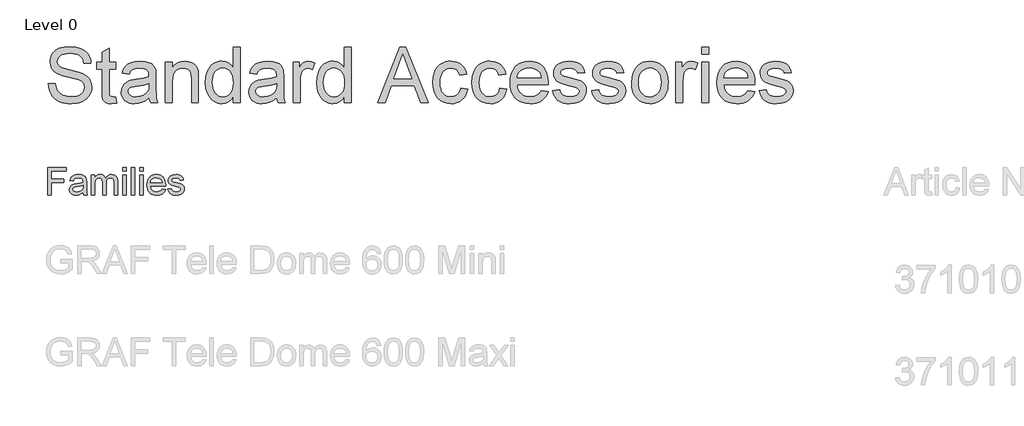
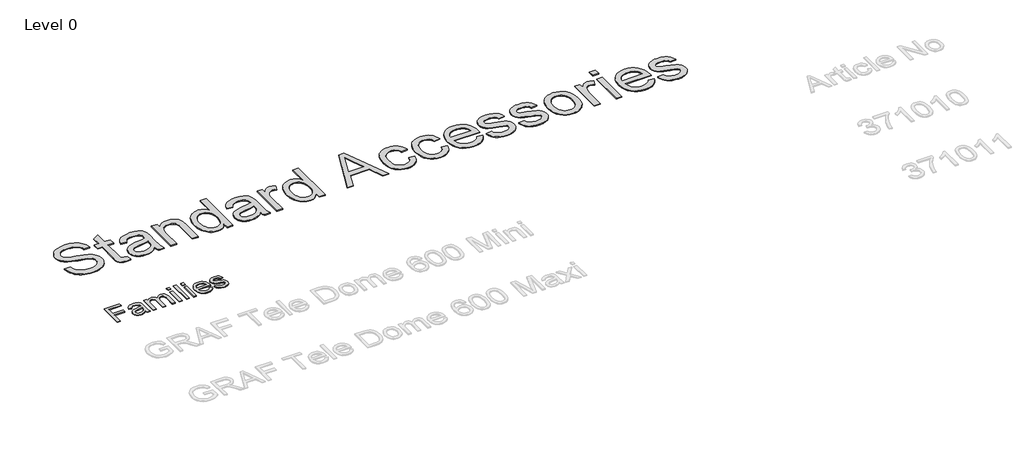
# One storey, part 8 of 14: 2 proxies.
"""IFC4 building model written with IfcOpenShell, lengths in millimetres."""

from ifc_helpers import new_model, si_unit, origin, origin_with_axes, place, context, project, spatial, polyline, outline, extrude, element, save

model = new_model("IFC4")

# Units and contexts
model_context = context("Model", 3, world=origin())
ifc_project = project(units=[si_unit("LENGTHUNIT", "METRE", prefix="MILLI")], contexts=[model_context])

# Site, building, storey
site = spatial("IfcSite", under=ifc_project)
building = spatial("IfcBuilding", under=site)
storey = spatial("IfcBuildingStorey", under=building, Name="Level 0", Elevation=0.0)

# Proxies
placement = place(None, origin())
element("IfcBuildingElementProxy", 1, Name="300mm Arial", ObjectType="300mm Arial", at=placement, inside=storey, context=model_context, shape_type="SweptSolid", body=[
    extrude(outline(polyline([(-15382.9152593, -7345.798374), (-15382.9152593, -7050.4137586), (-15184.4537209, -7050.4137586), (-15184.4537209, -7087.3368356), (-15345.9921824, -7087.3368356), (-15345.9921824, -7175.0291433), (-15207.530644, -7175.0291433), (-15207.530644, -7211.9522202), (-15345.9921824, -7211.9522202), (-15345.9921824, -7345.798374), (-15382.9152593, -7345.798374)])), origin_with_axes(), (0.0, 0.0, 1.0), 10.0),
    extrude(outline(polyline([(-14999.8383363, -7318.1060663), (-15017.4795622, -7333.2322683), (-15035.6436247, -7343.1301048), (-15054.7451872, -7348.5928452), (-15075.1989132, -7350.4137586), (-15106.0552834, -7346.032749), (-15128.8167017, -7332.8897202), (-15142.8521584, -7312.9317875), (-15147.530644, -7288.1060663), (-15145.763817, -7272.7995759), (-15140.4633363, -7258.8993356), (-15132.2872545, -7247.0002971), (-15121.8936247, -7237.6974125), (-15096.0402593, -7225.5820279), (-15064.093144, -7220.0291433), (-15026.3407401, -7214.1877971), (-15000.0546824, -7207.3368356), (-14999.8383363, -7199.1156817), (-15002.3804036, -7182.6373163), (-15010.0066055, -7171.8560663), (-15027.061894, -7163.8512586), (-15050.8239132, -7161.1829894), (-15072.8191055, -7162.9588308), (-15088.1796824, -7168.2863548), (-15098.654442, -7178.1391192), (-15105.9921824, -7193.4906817), (-15142.9152593, -7188.8752971), (-15136.5060045, -7168.6829894), (-15126.9417017, -7152.8176048), (-15113.3299228, -7140.6841913), (-15094.7782401, -7131.6877971), (-15072.0889372, -7126.1168836), (-15046.0642978, -7124.2599125), (-15021.1033603, -7125.9005375), (-15001.3167017, -7130.8224125), (-14986.3978315, -7138.2232538), (-14976.0402593, -7147.3007779), (-14969.171269, -7158.5237346), (-14964.718144, -7172.360874), (-14962.9152593, -7204.6685663), (-14962.9152593, -7250.6060663), (-14961.0402593, -7314.7527009), (-14953.6844901, -7345.798374), (-14990.607567, -7345.798374), (-14999.8383363, -7318.1060663)]), holes=[polyline([(-14999.8383363, -7244.2599125), (-15059.405644, -7255.5820279), (-15091.1724709, -7261.5676048), (-15105.5594901, -7271.3031817), (-15110.607567, -7285.5099125), (-15107.858168, -7296.4894798), (-15099.6099709, -7305.485874), (-15086.0432642, -7311.4894798), (-15067.3383363, -7313.4906817), (-15047.5066055, -7311.2821481), (-15029.982567, -7304.6565471), (-15015.7758363, -7294.8939269), (-15005.8960286, -7283.2743356), (-15001.515019, -7271.3031817), (-15000.0546824, -7254.7166433), (-14999.8383363, -7244.2599125)])]), origin_with_axes(), (0.0, 0.0, 1.0), 10.0),
    extrude(outline(polyline([(-14912.1460286, -7345.798374), (-14912.1460286, -7128.8752971), (-14875.2229517, -7128.8752971), (-14875.2229517, -7164.5724125), (-14864.1171824, -7148.1751769), (-14849.8383363, -7135.329624), (-14832.873192, -7127.0273404), (-14813.7085286, -7124.2599125), (-14793.1736728, -7127.0814269), (-14776.7133363, -7135.5459702), (-14764.4176632, -7149.0946481), (-14756.3767978, -7167.1685663), (-14742.9182642, -7148.3960303), (-14727.5667017, -7134.9870759), (-14710.3221103, -7126.9417034), (-14691.1844901, -7124.2599125), (-14663.4290815, -7128.7220519), (-14642.9032401, -7142.1084702), (-14630.2199468, -7164.7797442), (-14625.9921824, -7197.0964509), (-14625.9921824, -7345.798374), (-14662.9152593, -7345.798374), (-14662.9152593, -7212.9618356), (-14666.3407401, -7182.1325086), (-14671.154442, -7173.6319077), (-14678.7445863, -7166.9522202), (-14688.5072065, -7162.6252971), (-14699.8383363, -7161.1829894), (-14719.8413411, -7164.8789029), (-14736.1484324, -7175.9666433), (-14746.9927834, -7195.2034221), (-14750.607567, -7223.3464509), (-14750.607567, -7345.798374), (-14787.530644, -7345.798374), (-14787.530644, -7208.8512586), (-14789.6670622, -7187.9738548), (-14796.076317, -7173.0820279), (-14807.3533603, -7164.157749), (-14824.093144, -7161.1829894), (-14838.3179036, -7163.1661625), (-14851.4248747, -7169.1156817), (-14862.2421824, -7178.8873163), (-14869.5979517, -7192.3368356), (-14873.8167017, -7210.9966913), (-14875.2229517, -7236.3993356), (-14875.2229517, -7345.798374), (-14912.1460286, -7345.798374)])), origin_with_axes(), (0.0, 0.0, 1.0), 10.0),
    extrude(outline(polyline([(-14570.607567, -7087.3368356), (-14570.607567, -7050.4137586), (-14533.6844901, -7050.4137586), (-14533.6844901, -7087.3368356), (-14570.607567, -7087.3368356)])), origin_with_axes(), (0.0, 0.0, 1.0), 10.0),
    extrude(outline(polyline([(-14570.607567, -7345.798374), (-14570.607567, -7128.8752971), (-14533.6844901, -7128.8752971), (-14533.6844901, -7345.798374), (-14570.607567, -7345.798374)])), origin_with_axes(), (0.0, 0.0, 1.0), 10.0),
    extrude(outline(polyline([(-14478.2998747, -7345.798374), (-14478.2998747, -7050.4137586), (-14441.3767978, -7050.4137586), (-14441.3767978, -7345.798374), (-14478.2998747, -7345.798374)])), origin_with_axes(), (0.0, 0.0, 1.0), 10.0),
    extrude(outline(polyline([(-14385.9921824, -7087.3368356), (-14385.9921824, -7050.4137586), (-14349.0691055, -7050.4137586), (-14349.0691055, -7087.3368356), (-14385.9921824, -7087.3368356)])), origin_with_axes(), (0.0, 0.0, 1.0), 10.0),
    extrude(outline(polyline([(-14385.9921824, -7345.798374), (-14385.9921824, -7128.8752971), (-14349.0691055, -7128.8752971), (-14349.0691055, -7345.798374), (-14385.9921824, -7345.798374)])), origin_with_axes(), (0.0, 0.0, 1.0), 10.0),
    extrude(outline(polyline([(-14141.8094901, -7281.1829894), (-14105.607567, -7285.798374), (-14118.6514372, -7313.0760183), (-14139.4657401, -7333.4666433), (-14167.5817257, -7346.1769798), (-14202.530644, -7350.4137586), (-14225.4408002, -7348.5860844), (-14245.8539613, -7343.1030615), (-14263.7701271, -7333.9646901), (-14279.1892978, -7321.1709702), (-14291.5886367, -7305.0779714), (-14300.4453074, -7286.0417634), (-14305.7593098, -7264.0623464), (-14307.530644, -7239.1397202), (-14305.741281, -7213.3719918), (-14300.373192, -7190.6601529), (-14291.4263771, -7171.0042034), (-14278.9008363, -7154.4041433), (-14263.5222305, -7141.2160423), (-14246.0162209, -7131.7959702), (-14226.3828074, -7126.1439269), (-14204.6219901, -7124.2599125), (-14183.5620442, -7126.1394197), (-14164.5168218, -7131.7779413), (-14147.486323, -7141.1754774), (-14132.4705478, -7154.3320279), (-14120.213186, -7170.8960303), (-14111.4579276, -7190.5159221), (-14106.2047726, -7213.1917034), (-14104.4537209, -7238.923374), (-14104.670067, -7248.8752971), (-14270.607567, -7248.8752971), (-14264.2163411, -7276.5135183), (-14249.3695863, -7296.8320279), (-14227.9423026, -7309.3260183), (-14201.8094901, -7313.4906817), (-14182.1580478, -7311.5615952), (-14165.607567, -7305.7743356), (-14152.1580478, -7295.7683259), (-14141.8094901, -7281.1829894)]), holes=[polyline([(-14270.607567, -7211.9522202), (-14141.3767978, -7211.9522202), (-14146.3707882, -7192.4450086), (-14156.1604517, -7178.4906817), (-14177.686894, -7165.5099125), (-14204.7662209, -7161.1829894), (-14229.655043, -7164.6355134), (-14250.2349709, -7174.9930856), (-14264.5408603, -7191.1379173), (-14270.607567, -7211.9522202)])]), origin_with_axes(), (0.0, 0.0, 1.0), 10.0),
    extrude(outline(polyline([(-14081.3767978, -7281.1829894), (-14044.4537209, -7276.5676048), (-14038.6304036, -7292.360874), (-14027.3623747, -7303.9714509), (-14010.577519, -7311.110874), (-13988.2037209, -7313.4906817), (-13966.1003555, -7311.3091913), (-13950.5594901, -7304.7647202), (-13941.3647786, -7295.2815471), (-13938.2998747, -7284.2839509), (-13941.3828074, -7274.8728933), (-13950.6316055, -7267.6974125), (-13988.6364132, -7257.1685663), (-14044.2373747, -7239.1036625), (-14058.3088892, -7230.0261384), (-14068.5042017, -7218.0099125), (-14074.6971103, -7203.8212106), (-14076.7614132, -7188.2262586), (-14075.1027593, -7173.9203692), (-14070.1267978, -7160.7142394), (-14062.2842497, -7149.1307058), (-14052.0258363, -7139.6926048), (-14028.5522786, -7128.767124), (-13996.7854517, -7124.2599125), (-13972.7529997, -7126.0718115), (-13951.857567, -7131.5075086), (-13935.0546824, -7140.0351529), (-13923.2998747, -7151.1228933), (-13915.5114132, -7165.5910423), (-13910.607567, -7184.2599125), (-13947.530644, -7188.8752971), (-13952.1911007, -7177.2557058), (-13961.4128555, -7168.5027009), (-13975.2860526, -7163.0129173), (-13993.9008363, -7161.1829894), (-14015.1027593, -7162.9317875), (-14029.2373747, -7168.1781817), (-14037.1880959, -7175.7502971), (-14039.8383363, -7184.4762586), (-14035.4392978, -7195.2214509), (-14021.6652593, -7203.3704894), (-13989.8623747, -7211.2310663), (-13935.6676632, -7228.610874), (-13921.3527593, -7236.9221721), (-13910.499394, -7248.298374), (-13903.6574468, -7262.7755375), (-13901.3767978, -7280.3897202), (-13904.0540815, -7298.5988548), (-13912.0859324, -7315.7262586), (-13925.1658603, -7330.4287827), (-13942.9873747, -7341.3632779), (-13964.513817, -7348.1511384), (-13988.7085286, -7350.4137586), (-14025.9380959, -7346.0507779), (-14053.107567, -7332.9618356), (-14071.2445863, -7311.2911625), (-14081.3767978, -7281.1829894)])), origin_with_axes(), (0.0, 0.0, 1.0), 10.0),
])
element("IfcBuildingElementProxy", 2, Name="600mm Arial", ObjectType="600mm Arial", at=placement, inside=storey, context=model_context, shape_type="SweptSolid", body=[
    extrude(outline(polyline([(-15377.5518353, -6138.6072343), (-15302.2096027, -6138.6072343), (-15293.5643758, -6180.4170231), (-15277.9293911, -6214.0230434), (-15253.5388148, -6240.694488), (-15218.6268134, -6261.7005499), (-15175.952502, -6275.3305778), (-15128.2749954, -6279.8739205), (-15086.2996598, -6276.4342238), (-15049.5482484, -6266.1151339), (-15019.7682009, -6249.7811733), (-14998.7069567, -6228.2968648), (-14986.1805748, -6203.630377), (-14982.0051141, -6177.7498786), (-14985.1321111, -6152.5315679), (-14994.513102, -6130.7345596), (-15013.5693893, -6112.1381248), (-15045.7222757, -6096.5215341), (-15155.4246867, -6067.7531621), (-15227.4375872, -6048.7152688), (-15273.5148071, -6030.5970806), (-15311.0203765, -6005.2500111), (-15337.5998507, -5974.5318645), (-15353.4371706, -5939.1048284), (-15358.7162772, -5899.6310903), (-15357.0838008, -5877.1948871), (-15352.1863718, -5855.503645), (-15344.02399, -5834.5573639), (-15332.5966555, -5814.3560438), (-15318.0331271, -5795.7228207), (-15300.4621633, -5779.4808306), (-15279.8837642, -5765.6300735), (-15256.2979297, -5754.1705494), (-15203.2861342, -5738.7746879), (-15144.608956, -5733.642734), (-15081.0389472, -5739.0138112), (-15025.4151896, -5755.1270426), (-15001.0797956, -5767.1291927), (-14979.7242458, -5781.6513344), (-14961.3485401, -5798.6934678), (-14945.9526786, -5818.2555929), (-14933.6562229, -5839.7674926), (-14924.5787347, -5862.6589498), (-14918.7202139, -5886.9299644), (-14916.0806606, -5912.5805365), (-14991.4228932, -5912.5805365), (-14996.4628765, -5888.5394481), (-15005.2552562, -5867.6253567), (-15017.8000323, -5849.8382622), (-15034.0972046, -5835.1781647), (-15054.450276, -5823.7186406), (-15079.1627491, -5815.5332662), (-15108.2346237, -5810.6220415), (-15141.6659, -5808.9849667), (-15176.1640341, -5810.6036474), (-15205.640579, -5815.4596898), (-15230.0955346, -5823.5530937), (-15249.528901, -5834.8838591), (-15264.3361513, -5848.50469), (-15274.9127587, -5863.4682901), (-15281.2587231, -5879.7746596), (-15283.3740446, -5897.4237983), (-15281.8749254, -5912.6081277), (-15277.3775681, -5926.3761113), (-15269.8819724, -5938.7277493), (-15259.3881385, -5949.6630416), (-15242.8702369, -5960.0189198), (-15216.8609799, -5970.4851625), (-15136.3683993, -5991.7487419), (-15053.3006448, -6011.9454634), (-15003.0479643, -6029.567011), (-14960.0977413, -6056.9006432), (-14943.4924678, -6072.9678894), (-14930.1337528, -6090.6354222), (-14919.8652466, -6109.8112712), (-14912.5305993, -6130.4034658), (-14906.6628815, -6175.8368923), (-14908.3505402, -6199.4043326), (-14913.4135161, -6222.2819941), (-14921.8518094, -6244.469877), (-14933.66542, -6265.9679811), (-14948.6474142, -6285.9439734), (-14966.5908585, -6303.565521), (-14987.4957529, -6318.8326238), (-15011.3620973, -6331.7452818), (-15037.4955146, -6342.013788), (-15065.2016273, -6349.3484353), (-15125.3319395, -6355.2161531), (-15163.872177, -6353.6342605), (-15199.1474618, -6348.8885828), (-15231.1577939, -6340.9791199), (-15259.9031733, -6329.9058718), (-15285.5583439, -6315.6504445), (-15308.2980498, -6298.1944438), (-15328.1222908, -6277.5378698), (-15345.031067, -6253.6807224), (-15358.6518978, -6227.3955539), (-15368.6123029, -6199.4549163), (-15374.912282, -6169.8588098), (-15377.5518353, -6138.6072343)])), origin_with_axes(), (0.0, 0.0, 1.0), 10.0),
    extrude(outline(polyline([(-14642.9650674, -6282.9641292), (-14633.5472883, -6348.005666), (-14689.90681, -6355.2161531), (-14726.0696101, -6352.0891561), (-14753.0353603, -6342.7081653), (-14772.0916477, -6328.2504029), (-14784.5260591, -6309.8930913), (-14791.3686642, -6278.3656043), (-14793.6495326, -6224.3973156), (-14793.6495326, -5978.50499), (-14850.1562071, -5978.50499), (-14850.1562071, -5903.1627574), (-14793.6495326, -5903.1627574), (-14793.6495326, -5795.594062), (-14718.3073, -5751.3010698), (-14718.3073, -5903.1627574), (-14642.9650674, -5903.1627574), (-14642.9650674, -5978.50499), (-14718.3073, -5978.50499), (-14718.3073, -6222.1900236), (-14714.3341744, -6261.0383623), (-14701.4583046, -6274.797149), (-14690.5873917, -6278.6047276), (-14675.7801413, -6279.8739205), (-14642.9650674, -6282.9641292)])), origin_with_axes(), (0.0, 0.0, 1.0), 10.0),
    extrude(outline(polyline([(-14285.0894625, -6289.2916996), (-14321.0867157, -6320.156999), (-14358.1508267, -6340.3537205), (-14397.1279241, -6351.5005449), (-14438.8641365, -6355.2161531), (-14472.4103759, -6352.98127), (-14501.8271399, -6346.2766206), (-14527.1144286, -6335.102205), (-14548.2722418, -6319.4580232), (-14564.9786829, -6300.3373565), (-14576.9118551, -6278.7334863), (-14584.0717585, -6254.6464127), (-14586.4583929, -6228.0761356), (-14582.8531494, -6196.8429542), (-14572.0374187, -6168.4792523), (-14555.3539702, -6144.1990407), (-14534.1455732, -6125.2163297), (-14509.221568, -6110.8689319), (-14481.3912951, -6100.4946596), (-14416.2026055, -6089.1638942), (-14339.1681158, -6077.2445175), (-14285.5309209, -6063.2650017), (-14285.0894625, -6046.4895827), (-14290.2765986, -6012.8651684), (-14296.7605188, -6000.4123629), (-14305.838007, -5990.8658251), (-14321.5281741, -5981.3376814), (-14340.6396437, -5974.5318645), (-14389.1264907, -5969.087211), (-14434.0080941, -5972.7108486), (-14465.3516401, -5983.5817616), (-14486.725584, -6003.6865126), (-14501.6983812, -6035.0116645), (-14577.0406138, -6025.5938854), (-14563.9624089, -5984.391102), (-14544.4462691, -5952.0174864), (-14516.6711784, -5927.2590281), (-14478.8161211, -5908.9017166), (-14432.518172, -5897.5341629), (-14379.414406, -5893.7449784), (-14328.4811438, -5897.0927045), (-14288.1060948, -5907.135883), (-14257.6638597, -5922.2374389), (-14236.5290391, -5940.7602973), (-14222.5127351, -5963.6609515), (-14213.4260498, -5991.8958947), (-14209.7472299, -6057.8203482), (-14209.7472299, -6151.5566806), (-14205.9212571, -6282.4490945), (-14200.2558744, -6314.8043159), (-14190.9116717, -6345.798374), (-14266.2539043, -6345.798374), (-14278.3204338, -6319.605176), (-14285.0894625, -6289.2916996)]), holes=[polyline([(-14285.0894625, -6138.6072343), (-14335.710025, -6151.1520104), (-14406.6376737, -6161.7102236), (-14471.4584812, -6173.9239059), (-14488.3258707, -6182.2748272), (-14500.8154644, -6193.7895336), (-14508.5409863, -6207.5851084), (-14511.1161603, -6222.7786348), (-14505.5059599, -6245.1826483), (-14488.6753586, -6263.5399599), (-14460.9922385, -6275.7904303), (-14422.8244815, -6279.8739205), (-14382.357462, -6275.367366), (-14346.5993321, -6261.8477027), (-14317.6102308, -6241.9268927), (-14297.4502975, -6218.2168981), (-14288.510765, -6193.7895336), (-14285.5309209, -6159.9443901), (-14285.0894625, -6138.6072343)])]), origin_with_axes(), (0.0, 0.0, 1.0), 10.0),
    extrude(outline(polyline([(-14106.15166, -6345.798374), (-14106.15166, -5903.1627574), (-14030.8094274, -5903.1627574), (-14030.8094274, -5964.9669326), (-14004.6346234, -5933.8073276), (-13973.199107, -5911.5504669), (-13936.5028779, -5898.1963505), (-13894.5459364, -5893.7449784), (-13857.408249, -5897.3318278), (-13823.3975585, -5908.0923762), (-13795.0338567, -5924.6838541), (-13774.8371352, -5945.7634925), (-13761.1335308, -5971.2761088), (-13752.2491807, -6001.1665209), (-13748.2760551, -6074.007156), (-13748.2760551, -6345.798374), (-13823.6182877, -6345.798374), (-13823.6182877, -6084.1606991), (-13825.7887915, -6045.2019958), (-13832.3003028, -6017.5004815), (-13844.3116499, -5997.6532479), (-13862.9816612, -5982.2573864), (-13886.912385, -5972.3797548), (-13914.7058697, -5969.087211), (-13937.5835313, -5970.935818), (-13958.833315, -5976.4816391), (-13978.455221, -5985.7246742), (-13996.4492491, -5998.6649234), (-14011.4818271, -6016.7739146), (-14022.2193828, -6041.5231758), (-14028.6619163, -6072.9127071), (-14030.8094274, -6110.9425083), (-14030.8094274, -6345.798374), (-14106.15166, -6345.798374)])), origin_with_axes(), (0.0, 0.0, 1.0), 10.0),
    extrude(outline(polyline([(-13371.564892, -6345.798374), (-13371.564892, -6274.7235726), (-13394.1068613, -6309.9390765), (-13421.4129024, -6335.093008), (-13453.4830153, -6350.1853668), (-13490.3172001, -6355.2161531), (-13515.186023, -6353.3951372), (-13539.0247763, -6347.9320896), (-13561.83346, -6338.8270102), (-13583.6120741, -6326.0798991), (-13603.6800369, -6310.0724338), (-13621.3567668, -6291.1862918), (-13636.6422637, -6269.4214733), (-13649.5365276, -6244.7779781), (-13659.7728441, -6217.7248559), (-13667.0844988, -6188.7311562), (-13672.9338225, -6124.9220241), (-13667.5443513, -6061.9038383), (-13651.3759376, -6004.9924937), (-13639.2542258, -5979.6362272), (-13624.4469755, -5957.4253517), (-13606.9541867, -5938.3598673), (-13586.7758592, -5922.439774), (-13564.6247646, -5909.8858009), (-13541.2136741, -5900.9186773), (-13516.5425878, -5895.5384031), (-13490.6115057, -5893.7449784), (-13453.7497298, -5898.8769322), (-13421.155385, -5914.2727937), (-13393.5274472, -5937.8724237), (-13371.564892, -5967.615683), (-13371.564892, -5743.0605131), (-13296.2226594, -5743.0605131), (-13296.2226594, -6345.798374), (-13371.564892, -6345.798374)]), holes=[polyline([(-13597.5915899, -6124.6277185), (-13595.4670714, -6161.1629992), (-13589.0935158, -6192.7778581), (-13578.4709232, -6219.4722954), (-13563.5992935, -6241.246311), (-13545.8397902, -6258.1458901), (-13526.5535766, -6270.2170181), (-13505.7406527, -6277.4596949), (-13483.4010186, -6279.8739205), (-13460.9556183, -6277.5700595), (-13440.2668546, -6270.6584765), (-13421.3347275, -6259.1391715), (-13404.1592368, -6243.0121446), (-13389.899211, -6222.1486369), (-13379.7134782, -6196.4198899), (-13373.6020386, -6165.8259035), (-13371.564892, -6130.3666776), (-13373.6388268, -6091.4907478), (-13379.860631, -6058.151442), (-13390.2303048, -6030.3487602), (-13404.747848, -6008.0827025), (-13422.3004177, -5991.0221749), (-13441.7751708, -5978.8360838), (-13463.1721074, -5971.5244292), (-13486.4912273, -5969.087211), (-13509.2723199, -5971.4278602), (-13530.0852438, -5978.4498077), (-13548.929999, -5990.1530537), (-13565.8065855, -6006.5375981), (-13579.7125249, -6027.9621258), (-13589.6453388, -6054.7853217), (-13595.6050271, -6087.007186), (-13597.5915899, -6124.6277185)])]), origin_with_axes(), (0.0, 0.0, 1.0), 10.0),
    extrude(outline(polyline([(-12900.6759382, -6289.2916996), (-12936.6731914, -6320.156999), (-12973.7373025, -6340.3537205), (-13012.7143999, -6351.5005449), (-13054.4506122, -6355.2161531), (-13087.9968516, -6352.98127), (-13117.4136157, -6346.2766206), (-13142.7009043, -6335.102205), (-13163.8587176, -6319.4580232), (-13180.5651587, -6300.3373565), (-13192.4983309, -6278.7334863), (-13199.6582342, -6254.6464127), (-13202.0448687, -6228.0761356), (-13198.4396251, -6196.8429542), (-13187.6238945, -6168.4792523), (-13170.940446, -6144.1990407), (-13149.732049, -6125.2163297), (-13124.8080438, -6110.8689319), (-13096.9777708, -6100.4946596), (-13031.7890813, -6089.1638942), (-12954.7545915, -6077.2445175), (-12901.1173966, -6063.2650017), (-12900.6759382, -6046.4895827), (-12905.8630744, -6012.8651684), (-12912.3469945, -6000.4123629), (-12921.4244827, -5990.8658251), (-12937.1146498, -5981.3376814), (-12956.2261195, -5974.5318645), (-13004.7129665, -5969.087211), (-13049.5945699, -5972.7108486), (-13080.9381159, -5983.5817616), (-13102.3120598, -6003.6865126), (-13117.284857, -6035.0116645), (-13192.6270896, -6025.5938854), (-13179.5488847, -5984.391102), (-13160.0327448, -5952.0174864), (-13132.2576542, -5927.2590281), (-13094.4025969, -5908.9017166), (-13048.1046478, -5897.5341629), (-12995.0008818, -5893.7449784), (-12944.0676196, -5897.0927045), (-12903.6925706, -5907.135883), (-12873.2503355, -5922.2374389), (-12852.1155149, -5940.7602973), (-12838.0992108, -5963.6609515), (-12829.0125256, -5991.8958947), (-12825.3337056, -6057.8203482), (-12825.3337056, -6151.5566806), (-12821.5077329, -6282.4490945), (-12815.8423501, -6314.8043159), (-12806.4981475, -6345.798374), (-12881.8403801, -6345.798374), (-12893.9069095, -6319.605176), (-12900.6759382, -6289.2916996)]), holes=[polyline([(-12900.6759382, -6138.6072343), (-12951.2965008, -6151.1520104), (-13022.2241494, -6161.7102236), (-13087.044957, -6173.9239059), (-13103.9123465, -6182.2748272), (-13116.4019402, -6193.7895336), (-13124.1274621, -6207.5851084), (-13126.7026361, -6222.7786348), (-13121.0924356, -6245.1826483), (-13104.2618344, -6263.5399599), (-13076.5787142, -6275.7904303), (-13038.4109572, -6279.8739205), (-12997.9439377, -6275.367366), (-12962.1858078, -6261.8477027), (-12933.1967066, -6241.9268927), (-12913.0367733, -6218.2168981), (-12904.0972408, -6193.7895336), (-12901.1173966, -6159.9443901), (-12900.6759382, -6138.6072343)])]), origin_with_axes(), (0.0, 0.0, 1.0), 10.0),
    extrude(outline(polyline([(-12721.7381358, -6345.798374), (-12721.7381358, -5903.1627574), (-12655.8136822, -5903.1627574), (-12655.8136822, -5968.6457526), (-12631.4598941, -5930.6803307), (-12609.0190924, -5908.3131054), (-12586.5047143, -5897.3870101), (-12561.9301971, -5893.7449784), (-12524.4062336, -5899.5575139), (-12486.2936589, -5916.9951204), (-12511.4567873, -5984.5382548), (-12537.944291, -5972.9499719), (-12564.4317946, -5969.087211), (-12586.9277786, -5972.8028191), (-12607.0325297, -5983.9496436), (-12623.2745198, -6001.6815557), (-12634.1822209, -6025.152427), (-12643.3424826, -6067.2381273), (-12646.3959032, -6113.1498003), (-12646.3959032, -6345.798374), (-12721.7381358, -6345.798374)])), origin_with_axes(), (0.0, 0.0, 1.0), 10.0),
    extrude(outline(polyline([(-12166.0891703, -6345.798374), (-12166.0891703, -6274.7235726), (-12188.6311395, -6309.9390765), (-12215.9371806, -6335.093008), (-12248.0072935, -6350.1853668), (-12284.8414783, -6355.2161531), (-12309.7103012, -6353.3951372), (-12333.5490545, -6347.9320896), (-12356.3577382, -6338.8270102), (-12378.1363523, -6326.0798991), (-12398.2043151, -6310.0724338), (-12415.881045, -6291.1862918), (-12431.1665419, -6269.4214733), (-12444.0608058, -6244.7779781), (-12454.2971223, -6217.7248559), (-12461.608777, -6188.7311562), (-12467.4581007, -6124.9220241), (-12462.0686295, -6061.9038383), (-12445.9002158, -6004.9924937), (-12433.778504, -5979.6362272), (-12418.9712537, -5957.4253517), (-12401.4784649, -5938.3598673), (-12381.3001374, -5922.439774), (-12359.1490428, -5909.8858009), (-12335.7379523, -5900.9186773), (-12311.066866, -5895.5384031), (-12285.1357839, -5893.7449784), (-12248.274008, -5898.8769322), (-12215.6796632, -5914.2727937), (-12188.0517254, -5937.8724237), (-12166.0891703, -5967.615683), (-12166.0891703, -5743.0605131), (-12090.7469376, -5743.0605131), (-12090.7469376, -6345.798374), (-12166.0891703, -6345.798374)]), holes=[polyline([(-12392.1158681, -6124.6277185), (-12389.9913496, -6161.1629992), (-12383.617794, -6192.7778581), (-12372.9952014, -6219.4722954), (-12358.1235717, -6241.246311), (-12340.3640684, -6258.1458901), (-12321.0778548, -6270.2170181), (-12300.2649309, -6277.4596949), (-12277.9252968, -6279.8739205), (-12255.4798966, -6277.5700595), (-12234.7911328, -6270.6584765), (-12215.8590057, -6259.1391715), (-12198.683515, -6243.0121446), (-12184.4234892, -6222.1486369), (-12174.2377564, -6196.4198899), (-12168.1263168, -6165.8259035), (-12166.0891703, -6130.3666776), (-12168.163105, -6091.4907478), (-12174.3849092, -6058.151442), (-12184.754583, -6030.3487602), (-12199.2721262, -6008.0827025), (-12216.8246959, -5991.0221749), (-12236.299449, -5978.8360838), (-12257.6963856, -5971.5244292), (-12281.0155055, -5969.087211), (-12303.7965981, -5971.4278602), (-12324.609522, -5978.4498077), (-12343.4542772, -5990.1530537), (-12360.3308637, -6006.5375981), (-12374.2368031, -6027.9621258), (-12384.169617, -6054.7853217), (-12390.1293053, -6087.007186), (-12392.1158681, -6124.6277185)])]), origin_with_axes(), (0.0, 0.0, 1.0), 10.0),
    extrude(outline(polyline([(-11803.0632174, -6345.798374), (-11562.4683926, -5743.0605131), (-11498.3097726, -5743.0605131), (-11257.7149478, -6345.798374), (-11337.3246115, -6345.798374), (-11406.3392738, -6157.4427925), (-11654.5860442, -6157.4427925), (-11723.4535537, -6345.798374), (-11803.0632174, -6345.798374)]), holes=[polyline([(-11626.9213181, -6082.1005599), (-11433.8568471, -6082.1005599), (-11488.1562295, -5933.9176922), (-11530.3890826, -5818.4027457), (-11567.9130461, -5920.968246), (-11626.9213181, -6082.1005599)])]), origin_with_axes(), (0.0, 0.0, 1.0), 10.0),
    extrude(outline(polyline([(-10904.106774, -6185.6961297), (-10828.7645414, -6195.1139088), (-10836.9591128, -6230.6651051), (-10849.7706033, -6262.1236142), (-10867.1990128, -6289.4894361), (-10889.2443414, -6312.7625709), (-10914.977687, -6331.3360131), (-10943.4701475, -6344.6027575), (-10974.721723, -6352.5628042), (-11008.7324134, -6355.2161531), (-11050.9882591, -6351.5143405), (-11088.8755061, -6340.4089028), (-11122.3941544, -6321.8998399), (-11151.544204, -6295.9871519), (-11175.1392354, -6263.1582823), (-11191.9928293, -6223.9006749), (-11202.1049857, -6178.2143296), (-11205.4757044, -6126.0992465), (-11199.7183512, -6059.0527529), (-11192.5216597, -6028.8818308), (-11182.4462915, -6000.9457917), (-11169.4232689, -5975.8056559), (-11153.3836139, -5954.0224433), (-11134.3273266, -5935.5961538), (-11112.2544069, -5920.5267876), (-11088.1627347, -5908.8097461), (-11063.05019, -5900.4404307), (-11036.9167728, -5895.4188414), (-11009.762483, -5893.7449784), (-10976.3358052, -5896.0442408), (-10946.1005037, -5902.9420282), (-10919.0565786, -5914.4383406), (-10895.2040297, -5930.5331779), (-10874.9475274, -5950.8586581), (-10858.6917417, -5975.0468993), (-10846.4366727, -6003.0979014), (-10838.1823205, -6035.0116645), (-10913.5245531, -6044.4294436), (-10927.1913692, -6011.5591873), (-10948.4733426, -5987.9963455), (-10976.193251, -5973.8144946), (-11009.1738718, -5969.087211), (-11034.7738602, -5971.4140646), (-11057.8630539, -5978.3946254), (-11078.441453, -5990.0288935), (-11096.5090575, -6006.3168689), (-11111.2197388, -6027.6356305), (-11121.7273682, -6054.3622574), (-11128.0319459, -6086.4967497), (-11130.1334718, -6124.0391073), (-11128.0779312, -6162.1470835), (-11121.9113092, -6194.6540563), (-11111.633606, -6221.5600257), (-11097.2448215, -6242.8649918), (-11079.5359019, -6259.0563981), (-11059.2977937, -6270.6216883), (-11036.5304967, -6277.5608624), (-11011.234011, -6279.8739205), (-10972.2201254, -6274.0981732), (-10955.3481374, -6266.878489), (-10940.2327859, -6256.7709312), (-10927.2971353, -6243.6651351), (-10916.9642497, -6227.4507362), (-10909.2341293, -6208.1277344), (-10904.106774, -6185.6961297)])), origin_with_axes(), (0.0, 0.0, 1.0), 10.0),
    extrude(outline(polyline([(-10480.3067156, -6185.6961297), (-10404.9644829, -6195.1139088), (-10413.1590544, -6230.6651051), (-10425.9705449, -6262.1236142), (-10443.3989544, -6289.4894361), (-10465.4442829, -6312.7625709), (-10491.1776285, -6331.3360131), (-10519.670089, -6344.6027575), (-10550.9216645, -6352.5628042), (-10584.932355, -6355.2161531), (-10627.1882007, -6351.5143405), (-10665.0754476, -6340.4089028), (-10698.5940959, -6321.8998399), (-10727.7441455, -6295.9871519), (-10751.339177, -6263.1582823), (-10768.1927709, -6223.9006749), (-10778.3049272, -6178.2143296), (-10781.675646, -6126.0992465), (-10775.9182928, -6059.0527529), (-10768.7216012, -6028.8818308), (-10758.6462331, -6000.9457917), (-10745.6232105, -5975.8056559), (-10729.5835555, -5954.0224433), (-10710.5272681, -5935.5961538), (-10688.4543484, -5920.5267876), (-10664.3626763, -5908.8097461), (-10639.2501316, -5900.4404307), (-10613.1167143, -5895.4188414), (-10585.9624246, -5893.7449784), (-10552.5357468, -5896.0442408), (-10522.3004453, -5902.9420282), (-10495.2565201, -5914.4383406), (-10471.4039713, -5930.5331779), (-10451.1474689, -5950.8586581), (-10434.8916832, -5975.0468993), (-10422.6366143, -6003.0979014), (-10414.382262, -6035.0116645), (-10489.7244946, -6044.4294436), (-10503.3913107, -6011.5591873), (-10524.6732842, -5987.9963455), (-10552.3931925, -5973.8144946), (-10585.3738134, -5969.087211), (-10610.9738017, -5971.4140646), (-10634.0629954, -5978.3946254), (-10654.6413945, -5990.0288935), (-10672.708999, -6006.3168689), (-10687.4196803, -6027.6356305), (-10697.9273098, -6054.3622574), (-10704.2318875, -6086.4967497), (-10706.3334134, -6124.0391073), (-10704.2778727, -6162.1470835), (-10698.1112508, -6194.6540563), (-10687.8335476, -6221.5600257), (-10673.444763, -6242.8649918), (-10655.7358435, -6259.0563981), (-10635.4977352, -6270.6216883), (-10612.7304382, -6277.5608624), (-10587.4339525, -6279.8739205), (-10548.420067, -6274.0981732), (-10531.548079, -6266.878489), (-10516.4327275, -6256.7709312), (-10503.4970768, -6243.6651351), (-10493.1641913, -6227.4507362), (-10485.4340709, -6208.1277344), (-10480.3067156, -6185.6961297)])), origin_with_axes(), (0.0, 0.0, 1.0), 10.0),
    extrude(outline(polyline([(-10029.1362367, -6213.949467), (-9955.265532, -6223.367246), (-9966.591699, -6252.9541555), (-9981.8817944, -6279.0277919), (-10001.1358183, -6301.5881553), (-10024.3537707, -6320.6352456), (-10051.2965284, -6335.7643926), (-10081.7249679, -6346.5709262), (-10115.6390893, -6353.0548464), (-10153.0388926, -6355.2161531), (-10199.7874972, -6351.4867494), (-10241.4409361, -6340.2985382), (-10277.9992094, -6321.6515196), (-10309.462317, -6295.5456935), (-10334.7634012, -6262.7076269), (-10352.8356042, -6223.8638867), (-10363.678926, -6179.014473), (-10367.2933666, -6128.1593857), (-10363.6421378, -6075.5798515), (-10352.6884514, -6029.2359172), (-10334.4323074, -5989.1275827), (-10308.8737058, -5955.2548479), (-10277.4933716, -5928.34428), (-10241.7720299, -5909.1224457), (-10201.7096806, -5897.5893452), (-10157.3063238, -5893.7449784), (-10114.3331082, -5897.5801482), (-10075.470974, -5909.0856575), (-10040.719921, -5928.2615065), (-10010.0799493, -5955.1076951), (-9985.0685722, -5988.9068535), (-9967.2033028, -6028.9416116), (-9956.4841411, -6075.2119695), (-9952.9110873, -6127.7179273), (-9953.3525457, -6148.0250134), (-10291.951134, -6148.0250134), (-10287.5871339, -6178.0901695), (-10278.9097173, -6204.4213233), (-10265.9188843, -6227.0184748), (-10248.614635, -6245.8816241), (-10227.9534624, -6260.7532538), (-10204.8918599, -6271.3758464), (-10179.4298273, -6277.749402), (-10151.5673647, -6279.8739205), (-10111.4682272, -6275.9375831), (-10077.69666, -6264.1285711), (-10050.2526632, -6243.7111204), (-10029.1362367, -6213.949467)]), holes=[polyline([(-10291.951134, -6072.6827808), (-10028.2533199, -6072.6827808), (-10038.4436511, -6032.8779489), (-10047.2084397, -6017.22457), (-10058.4196435, -6004.4038825), (-10078.9658529, -5988.9528387), (-10102.3447537, -5977.9163788), (-10128.5563459, -5971.2945029), (-10157.6006294, -5969.087211), (-10184.0927316, -5970.848446), (-10208.3867388, -5976.1321512), (-10230.4826512, -5984.9383264), (-10250.3804686, -5997.2669718), (-10267.0777126, -6012.5478702), (-10279.5719049, -6030.2108045), (-10287.8630454, -6050.2557747), (-10291.951134, -6072.6827808)])]), origin_with_axes(), (0.0, 0.0, 1.0), 10.0),
    extrude(outline(polyline([(-9905.8221919, -6213.949467), (-9830.4799593, -6204.5316879), (-9825.9274196, -6221.7117771), (-9818.5973708, -6236.7581507), (-9808.489813, -6249.6708087), (-9795.6047461, -6260.4497511), (-9779.905382, -6268.9478252), (-9761.3549324, -6275.0178782), (-9715.7007768, -6279.8739205), (-9670.5984442, -6275.4225483), (-9653.0688671, -6269.8583332), (-9638.8870162, -6262.0684319), (-9620.1250344, -6242.717839), (-9615.434539, -6231.8837142), (-9613.8710405, -6220.2770373), (-9615.443736, -6210.1051001), (-9620.1618226, -6201.0735971), (-9639.034169, -6186.4318937), (-9667.250718, -6176.8669618), (-9716.5836936, -6164.9475852), (-9785.3408385, -6145.0635634), (-9830.0385009, -6128.0858093), (-9858.7516906, -6109.5629508), (-9879.5554174, -6085.0436158), (-9892.192164, -6056.0913028), (-9896.4044128, -6024.2695102), (-9893.0198985, -5995.0780739), (-9882.8663554, -5968.1307178), (-9866.8634886, -5944.4942996), (-9845.9310031, -5925.2356771), (-9825.1272762, -5913.1139654), (-9798.0327673, -5902.9420282), (-9766.7076154, -5896.0442408), (-9733.2119597, -5893.7449784), (-9684.1732898, -5897.4421924), (-9641.5357665, -5908.5338346), (-9607.2491646, -5925.9346529), (-9583.2632585, -5948.5593956), (-9567.3707563, -5978.0819257), (-9557.3643661, -6016.1761063), (-9632.7065987, -6025.5938854), (-9642.2163482, -6001.8838908), (-9661.0335123, -5984.02322), (-9689.3420318, -5972.8212132), (-9727.3258478, -5969.087211), (-9770.5887705, -5972.6556663), (-9799.4307189, -5983.3610324), (-9815.6543149, -5998.8120762), (-9821.0621802, -6016.6175647), (-9818.8181, -6028.2058476), (-9812.0858595, -6038.5433317), (-9800.5711531, -6047.7771697), (-9783.9796751, -6055.1715978), (-9719.0852911, -6071.2112528), (-9608.4999634, -6106.6750772), (-9579.290133, -6123.6344371), (-9557.1436369, -6146.847791), (-9543.1825151, -6176.3887152), (-9538.5288079, -6212.3307862), (-9543.9918555, -6249.4868677), (-9560.3809984, -6284.4356572), (-9587.0708372, -6314.4364339), (-9623.4359724, -6336.7484769), (-9667.3610826, -6350.5992341), (-9716.7308464, -6355.2161531), (-9757.2806393, -6352.990467), (-9792.6984784, -6346.3134088), (-9822.9843636, -6335.1849785), (-9848.138295, -6319.605176), (-9868.6845045, -6299.6475777), (-9885.1472238, -6275.3857601), (-9897.5264529, -6246.8197232), (-9905.8221919, -6213.949467)])), origin_with_axes(), (0.0, 0.0, 1.0), 10.0),
    extrude(outline(polyline([(-9482.0221334, -6213.949467), (-9406.6799008, -6204.5316879), (-9402.1273611, -6221.7117771), (-9394.7973124, -6236.7581507), (-9384.6897546, -6249.6708087), (-9371.8046877, -6260.4497511), (-9356.1053235, -6268.9478252), (-9337.5548739, -6275.0178782), (-9291.9007183, -6279.8739205), (-9246.7983857, -6275.4225483), (-9229.2688087, -6269.8583332), (-9215.0869577, -6262.0684319), (-9196.324976, -6242.717839), (-9191.6344805, -6231.8837142), (-9190.0709821, -6220.2770373), (-9191.6436776, -6210.1051001), (-9196.3617642, -6201.0735971), (-9215.2341105, -6186.4318937), (-9243.4506596, -6176.8669618), (-9292.7836351, -6164.9475852), (-9361.54078, -6145.0635634), (-9406.2384424, -6128.0858093), (-9434.9516322, -6109.5629508), (-9455.755359, -6085.0436158), (-9468.3921055, -6056.0913028), (-9472.6043544, -6024.2695102), (-9469.21984, -5995.0780739), (-9459.0662969, -5968.1307178), (-9443.0634302, -5944.4942996), (-9422.1309446, -5925.2356771), (-9401.3272178, -5913.1139654), (-9374.2327089, -5902.9420282), (-9342.907557, -5896.0442408), (-9309.4119013, -5893.7449784), (-9260.3732313, -5897.4421924), (-9217.7357081, -5908.5338346), (-9183.4491062, -5925.9346529), (-9159.4632001, -5948.5593956), (-9143.5706979, -5978.0819257), (-9133.5643076, -6016.1761063), (-9208.9065402, -6025.5938854), (-9218.4162898, -6001.8838908), (-9237.2334538, -5984.02322), (-9265.5419734, -5972.8212132), (-9303.5257894, -5969.087211), (-9346.788712, -5972.6556663), (-9375.6306604, -5983.3610324), (-9391.8542564, -5998.8120762), (-9397.2621218, -6016.6175647), (-9395.0180416, -6028.2058476), (-9388.2858011, -6038.5433317), (-9376.7710946, -6047.7771697), (-9360.1796166, -6055.1715978), (-9295.2852327, -6071.2112528), (-9184.6999049, -6106.6750772), (-9155.4900745, -6123.6344371), (-9133.3435784, -6146.847791), (-9119.3824567, -6176.3887152), (-9114.7287495, -6212.3307862), (-9120.1917971, -6249.4868677), (-9136.58094, -6284.4356572), (-9163.2707787, -6314.4364339), (-9199.6359139, -6336.7484769), (-9243.5610242, -6350.5992341), (-9292.9307879, -6355.2161531), (-9333.4805808, -6352.990467), (-9368.8984199, -6346.3134088), (-9399.1843052, -6335.1849785), (-9424.3382366, -6319.605176), (-9444.884446, -6299.6475777), (-9461.3471653, -6275.3857601), (-9473.7263944, -6246.8197232), (-9482.0221334, -6213.949467)])), origin_with_axes(), (0.0, 0.0, 1.0), 10.0),
    extrude(outline(polyline([(-9048.8042959, -6124.4805657), (-9044.7300028, -6067.1553538), (-9032.5071235, -6017.7579989), (-9012.1356581, -5976.288501), (-8983.6156064, -5942.7468601), (-8954.9024167, -5921.3085368), (-8923.2093828, -5905.9954488), (-8888.5365047, -5896.807596), (-8850.8837825, -5893.7449784), (-8809.3177156, -5897.4743821), (-8771.7339713, -5908.6625933), (-8738.1325495, -5927.3096119), (-8708.5134504, -5953.415438), (-8684.3390048, -5986.0971547), (-8667.0715436, -6024.4718453), (-8656.7110669, -6068.5395098), (-8653.2575747, -6118.3001482), (-8654.784285, -6158.6292119), (-8659.3644158, -6194.414933), (-8666.9979672, -6225.6573114), (-8677.6849392, -6252.3563472), (-8691.2919745, -6275.4179498), (-8707.6857159, -6295.7480286), (-8726.8661634, -6313.3465835), (-8748.8333171, -6328.2136147), (-8772.7318512, -6340.0272252), (-8797.7064401, -6348.4655185), (-8823.7570839, -6353.5284944), (-8850.8837825, -6355.2161531), (-8893.0568547, -6351.5005449), (-8930.990087, -6340.3537205), (-8964.6834792, -6321.7756797), (-8994.1370314, -6295.7664227), (-9018.0539596, -6262.7674077), (-9035.1374798, -6223.2200932), (-9045.3875919, -6177.1244792), (-9048.8042959, -6124.4805657)]), holes=[polyline([(-8973.4620633, -6124.3334129), (-8971.2823625, -6160.8778906), (-8964.74326, -6192.5203407), (-8953.8447559, -6219.2607633), (-8938.5868502, -6241.0991582), (-8920.0272035, -6258.0631167), (-8899.2234767, -6270.1802299), (-8876.1756697, -6277.4504978), (-8850.8837825, -6279.8739205), (-8825.720654, -6277.4367023), (-8802.7648175, -6270.1250476), (-8782.016273, -6257.9389565), (-8763.4750205, -6240.878429), (-8748.2171147, -6218.8239034), (-8737.3186106, -6191.655818), (-8730.7795081, -6159.374173), (-8728.5998073, -6121.9789682), (-8730.7933037, -6086.5933187), (-8737.3737929, -6055.7786031), (-8748.3412749, -6029.5348213), (-8763.6957497, -6007.8619733), (-8782.3059801, -5990.8980148), (-8803.040729, -5978.7809015), (-8825.8999965, -5971.5106336), (-8850.8837825, -5969.087211), (-8876.1756697, -5971.5014366), (-8899.2234767, -5978.7441133), (-8920.0272035, -5990.8152413), (-8938.5868502, -6007.7148205), (-8953.8447559, -6029.488836), (-8964.74326, -6056.1832733), (-8971.2823625, -6087.7981323), (-8973.4620633, -6124.3334129)])]), origin_with_axes(), (0.0, 0.0, 1.0), 10.0),
    extrude(outline(polyline([(-8568.497563, -6345.798374), (-8568.497563, -5903.1627574), (-8502.5731095, -5903.1627574), (-8502.5731095, -5968.6457526), (-8478.2193214, -5930.6803307), (-8455.7785197, -5908.3131054), (-8433.2641416, -5897.3870101), (-8408.6896243, -5893.7449784), (-8371.1656608, -5899.5575139), (-8333.0530861, -5916.9951204), (-8358.2162146, -5984.5382548), (-8384.7037182, -5972.9499719), (-8411.1912219, -5969.087211), (-8433.6872059, -5972.8028191), (-8453.7919569, -5983.9496436), (-8470.033947, -6001.6815557), (-8480.9416482, -6025.152427), (-8490.1019098, -6067.2381273), (-8493.1553304, -6113.1498003), (-8493.1553304, -6345.798374), (-8568.497563, -6345.798374)])), origin_with_axes(), (0.0, 0.0, 1.0), 10.0),
    extrude(outline(polyline([(-8285.9641907, -5818.4027457), (-8285.9641907, -5743.0605131), (-8210.6219581, -5743.0605131), (-8210.6219581, -5818.4027457), (-8285.9641907, -5818.4027457)])), origin_with_axes(), (0.0, 0.0, 1.0), 10.0),
    extrude(outline(polyline([(-8285.9641907, -6345.798374), (-8285.9641907, -5903.1627574), (-8210.6219581, -5903.1627574), (-8210.6219581, -6345.798374), (-8285.9641907, -6345.798374)])), origin_with_axes(), (0.0, 0.0, 1.0), 10.0),
    extrude(outline(polyline([(-7787.7048165, -6213.949467), (-7713.8341118, -6223.367246), (-7725.1602787, -6252.9541555), (-7740.4503742, -6279.0277919), (-7759.7043981, -6301.5881553), (-7782.9223505, -6320.6352456), (-7809.8651081, -6335.7643926), (-7840.2935477, -6346.5709262), (-7874.2076691, -6353.0548464), (-7911.6074724, -6355.2161531), (-7958.356077, -6351.4867494), (-8000.0095159, -6340.2985382), (-8036.5677891, -6321.6515196), (-8068.0308968, -6295.5456935), (-8093.331981, -6262.7076269), (-8111.404184, -6223.8638867), (-8122.2475058, -6179.014473), (-8125.8619464, -6128.1593857), (-8122.2107176, -6075.5798515), (-8111.2570312, -6029.2359172), (-8093.0008872, -5989.1275827), (-8067.4422856, -5955.2548479), (-8036.0619514, -5928.34428), (-8000.3406097, -5909.1224457), (-7960.2782604, -5897.5893452), (-7915.8749036, -5893.7449784), (-7872.901688, -5897.5801482), (-7834.0395537, -5909.0856575), (-7799.2885008, -5928.2615065), (-7768.6485291, -5955.1076951), (-7743.637152, -5988.9068535), (-7725.7718826, -6028.9416116), (-7715.0527209, -6075.2119695), (-7711.4796671, -6127.7179273), (-7711.9211254, -6148.0250134), (-8050.5197138, -6148.0250134), (-8046.1557136, -6178.0901695), (-8037.4782971, -6204.4213233), (-8024.4874641, -6227.0184748), (-8007.1832148, -6245.8816241), (-7986.5220422, -6260.7532538), (-7963.4604396, -6271.3758464), (-7937.9984071, -6277.749402), (-7910.1359444, -6279.8739205), (-7870.036807, -6275.9375831), (-7836.2652398, -6264.1285711), (-7808.821243, -6243.7111204), (-7787.7048165, -6213.949467)]), holes=[polyline([(-8050.5197138, -6072.6827808), (-7786.8218997, -6072.6827808), (-7797.0122309, -6032.8779489), (-7805.7770195, -6017.22457), (-7816.9882233, -6004.4038825), (-7837.5344327, -5988.9528387), (-7860.9133335, -5977.9163788), (-7887.1249257, -5971.2945029), (-7916.1692092, -5969.087211), (-7942.6613113, -5970.848446), (-7966.9553186, -5976.1321512), (-7989.0512309, -5984.9383264), (-8008.9490484, -5997.2669718), (-8025.6462924, -6012.5478702), (-8038.1404847, -6030.2108045), (-8046.4316251, -6050.2557747), (-8050.5197138, -6072.6827808)])]), origin_with_axes(), (0.0, 0.0, 1.0), 10.0),
    extrude(outline(polyline([(-7664.3907717, -6213.949467), (-7589.0485391, -6204.5316879), (-7584.4959994, -6221.7117771), (-7577.1659506, -6236.7581507), (-7567.0583928, -6249.6708087), (-7554.1733259, -6260.4497511), (-7538.4739618, -6268.9478252), (-7519.9235122, -6275.0178782), (-7474.2693566, -6279.8739205), (-7429.167024, -6275.4225483), (-7411.6374469, -6269.8583332), (-7397.455596, -6262.0684319), (-7378.6936142, -6242.717839), (-7374.0031188, -6231.8837142), (-7372.4396203, -6220.2770373), (-7374.0123158, -6210.1051001), (-7378.7304024, -6201.0735971), (-7397.6027488, -6186.4318937), (-7425.8192978, -6176.8669618), (-7475.1522734, -6164.9475852), (-7543.9094183, -6145.0635634), (-7588.6070807, -6128.0858093), (-7617.3202704, -6109.5629508), (-7638.1239972, -6085.0436158), (-7650.7607437, -6056.0913028), (-7654.9729926, -6024.2695102), (-7651.5884782, -5995.0780739), (-7641.4349352, -5968.1307178), (-7625.4320684, -5944.4942996), (-7604.4995829, -5925.2356771), (-7583.695856, -5913.1139654), (-7556.6013471, -5902.9420282), (-7525.2761952, -5896.0442408), (-7491.7805395, -5893.7449784), (-7442.7418696, -5897.4421924), (-7400.1043463, -5908.5338346), (-7365.8177444, -5925.9346529), (-7341.8318383, -5948.5593956), (-7325.9393361, -5978.0819257), (-7315.9329458, -6016.1761063), (-7391.2751785, -6025.5938854), (-7400.784928, -6001.8838908), (-7419.6020921, -5984.02322), (-7447.9106116, -5972.8212132), (-7485.8944276, -5969.087211), (-7529.1573502, -5972.6556663), (-7557.9992987, -5983.3610324), (-7574.2228947, -5998.8120762), (-7579.63076, -6016.6175647), (-7577.3866798, -6028.2058476), (-7570.6544393, -6038.5433317), (-7559.1397329, -6047.7771697), (-7542.5482549, -6055.1715978), (-7477.6538709, -6071.2112528), (-7367.0685432, -6106.6750772), (-7337.8587128, -6123.6344371), (-7315.7122166, -6146.847791), (-7301.7510949, -6176.3887152), (-7297.0973877, -6212.3307862), (-7302.5604353, -6249.4868677), (-7318.9495782, -6284.4356572), (-7345.6394169, -6314.4364339), (-7382.0045522, -6336.7484769), (-7425.9296624, -6350.5992341), (-7475.2994261, -6355.2161531), (-7515.8492191, -6352.990467), (-7551.2670582, -6346.3134088), (-7581.5529434, -6335.1849785), (-7606.7068748, -6319.605176), (-7627.2530843, -6299.6475777), (-7643.7158035, -6275.3857601), (-7656.0950327, -6246.8197232), (-7664.3907717, -6213.949467)])), origin_with_axes(), (0.0, 0.0, 1.0), 10.0),
])

save(model, "model.ifc")
